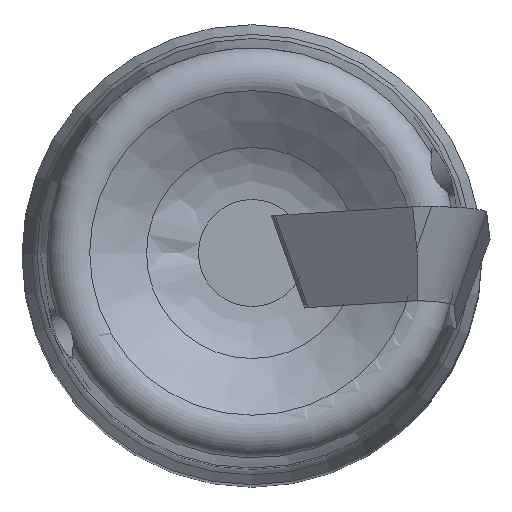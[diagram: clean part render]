
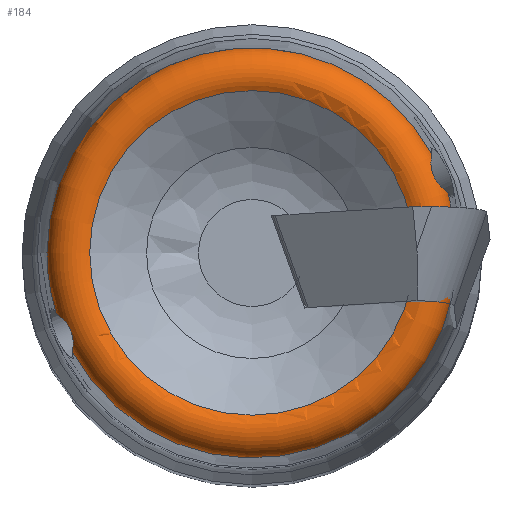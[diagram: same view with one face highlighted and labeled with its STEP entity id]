
A CAD part, top view. The second image highlights one B-rep face of the part: STEP entity #184.
In plain terms, the highlighted toroidal (fillet/blend) face has major radius 9.822 mm and minor radius 1.5 mm.
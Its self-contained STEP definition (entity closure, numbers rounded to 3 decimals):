
#181=TOROIDAL_SURFACE('',#486,9.822,1.5);
#184=ADVANCED_FACE('',(#221,#222),#181,.T.);
#215=B_SPLINE_CURVE_WITH_KNOTS('',3,(#700,#701,#702,#703,#704,#705,#706,
#707,#708,#709,#710,#711,#712,#713,#714,#715,#716,#717,#718,#719,#720,#721,
#722,#723,#724,#725,#726,#727,#728,#729,#730),.UNSPECIFIED.,.F.,.F.,(4,
3,3,3,3,3,3,3,3,3,4),(0.,0.113,0.226,0.333,
0.438,0.548,0.663,0.774,
0.879,0.985,1.),.UNSPECIFIED.);
#216=B_SPLINE_CURVE_WITH_KNOTS('',3,(#731,#732,#733,#734,#735,#736,#737,
#738,#739,#740,#741,#742,#743,#744,#745,#746,#747,#748,#749,#750,#751,#752,
#753,#754,#755,#756,#757,#758,#759,#760,#761),.UNSPECIFIED.,.F.,.F.,(4,
3,3,3,3,3,3,3,3,3,4),(0.,0.113,0.226,0.333,
0.438,0.548,0.663,0.774,
0.879,0.985,1.),.UNSPECIFIED.);
#221=FACE_BOUND('',#249,.T.);
#222=FACE_BOUND('',#250,.T.);
#249=EDGE_LOOP('',(#292));
#250=EDGE_LOOP('',(#293,#294,#295,#296));
#292=ORIENTED_EDGE('',*,*,#425,.F.);
#293=ORIENTED_EDGE('',*,*,#423,.F.);
#294=ORIENTED_EDGE('',*,*,#426,.T.);
#295=ORIENTED_EDGE('',*,*,#421,.F.);
#296=ORIENTED_EDGE('',*,*,#427,.T.);
#384=VERTEX_POINT('',#648);
#385=VERTEX_POINT('',#649);
#386=VERTEX_POINT('',#672);
#387=VERTEX_POINT('',#674);
#388=VERTEX_POINT('',#699);
#421=EDGE_CURVE('',#384,#385,#469,.T.);
#423=EDGE_CURVE('',#386,#387,#470,.T.);
#425=EDGE_CURVE('',#388,#388,#471,.T.);
#426=EDGE_CURVE('',#386,#385,#215,.T.);
#427=EDGE_CURVE('',#384,#387,#216,.T.);
#469=CIRCLE('',#482,11.32);
#470=CIRCLE('',#483,11.32);
#471=CIRCLE('',#485,8.961);
#482=AXIS2_PLACEMENT_3D('',#647,#532,#533);
#483=AXIS2_PLACEMENT_3D('',#673,#534,#535);
#485=AXIS2_PLACEMENT_3D('',#698,#538,#539);
#486=AXIS2_PLACEMENT_3D('',#762,#540,#541);
#532=DIRECTION('',(0.,0.,-1.));
#533=DIRECTION('',(1.,0.,0.));
#534=DIRECTION('',(0.,0.,-1.));
#535=DIRECTION('',(1.,0.,0.));
#538=DIRECTION('',(0.,0.,1.));
#539=DIRECTION('',(-1.,0.,0.));
#540=DIRECTION('',(0.,0.,1.));
#541=DIRECTION('',(1.,0.,0.));
#647=CARTESIAN_POINT('',(0.,0.,-0.161));
#648=CARTESIAN_POINT('',(10.823,3.319,-0.161));
#649=CARTESIAN_POINT('',(-9.906,-5.48,-0.161));
#672=CARTESIAN_POINT('',(-10.823,-3.319,-0.161));
#673=CARTESIAN_POINT('',(0.,0.,-0.161));
#674=CARTESIAN_POINT('',(9.906,5.48,-0.161));
#698=CARTESIAN_POINT('',(0.,0.,1.002));
#699=CARTESIAN_POINT('',(-8.961,0.,1.002));
#700=CARTESIAN_POINT('',(-10.823,-3.319,-0.161));
#701=CARTESIAN_POINT('',(-10.811,-3.34,-0.034));
#702=CARTESIAN_POINT('',(-10.779,-3.367,0.093));
#703=CARTESIAN_POINT('',(-10.73,-3.404,0.208));
#704=CARTESIAN_POINT('',(-10.682,-3.441,0.323));
#705=CARTESIAN_POINT('',(-10.615,-3.491,0.429));
#706=CARTESIAN_POINT('',(-10.542,-3.555,0.516));
#707=CARTESIAN_POINT('',(-10.472,-3.615,0.598));
#708=CARTESIAN_POINT('',(-10.395,-3.69,0.665));
#709=CARTESIAN_POINT('',(-10.321,-3.776,0.713));
#710=CARTESIAN_POINT('',(-10.25,-3.861,0.761));
#711=CARTESIAN_POINT('',(-10.18,-3.958,0.793));
#712=CARTESIAN_POINT('',(-10.121,-4.061,0.81));
#713=CARTESIAN_POINT('',(-10.059,-4.171,0.828));
#714=CARTESIAN_POINT('',(-10.006,-4.29,0.83));
#715=CARTESIAN_POINT('',(-9.967,-4.411,0.816));
#716=CARTESIAN_POINT('',(-9.927,-4.536,0.802));
#717=CARTESIAN_POINT('',(-9.901,-4.665,0.77));
#718=CARTESIAN_POINT('',(-9.888,-4.787,0.719));
#719=CARTESIAN_POINT('',(-9.875,-4.905,0.67));
#720=CARTESIAN_POINT('',(-9.875,-5.018,0.601));
#721=CARTESIAN_POINT('',(-9.88,-5.114,0.516));
#722=CARTESIAN_POINT('',(-9.885,-5.204,0.436));
#723=CARTESIAN_POINT('',(-9.894,-5.281,0.339));
#724=CARTESIAN_POINT('',(-9.901,-5.34,0.234));
#725=CARTESIAN_POINT('',(-9.908,-5.4,0.127));
#726=CARTESIAN_POINT('',(-9.912,-5.443,0.01));
#727=CARTESIAN_POINT('',(-9.908,-5.469,-0.11));
#728=CARTESIAN_POINT('',(-9.907,-5.473,-0.127));
#729=CARTESIAN_POINT('',(-9.907,-5.476,-0.144));
#730=CARTESIAN_POINT('',(-9.906,-5.48,-0.161));
#731=CARTESIAN_POINT('',(10.823,3.319,-0.161));
#732=CARTESIAN_POINT('',(10.811,3.34,-0.034));
#733=CARTESIAN_POINT('',(10.779,3.367,0.093));
#734=CARTESIAN_POINT('',(10.73,3.404,0.208));
#735=CARTESIAN_POINT('',(10.682,3.441,0.323));
#736=CARTESIAN_POINT('',(10.615,3.491,0.429));
#737=CARTESIAN_POINT('',(10.542,3.555,0.516));
#738=CARTESIAN_POINT('',(10.472,3.615,0.598));
#739=CARTESIAN_POINT('',(10.395,3.69,0.665));
#740=CARTESIAN_POINT('',(10.321,3.776,0.713));
#741=CARTESIAN_POINT('',(10.25,3.861,0.761));
#742=CARTESIAN_POINT('',(10.18,3.958,0.793));
#743=CARTESIAN_POINT('',(10.121,4.061,0.81));
#744=CARTESIAN_POINT('',(10.059,4.171,0.828));
#745=CARTESIAN_POINT('',(10.006,4.29,0.83));
#746=CARTESIAN_POINT('',(9.967,4.411,0.816));
#747=CARTESIAN_POINT('',(9.927,4.536,0.802));
#748=CARTESIAN_POINT('',(9.901,4.665,0.77));
#749=CARTESIAN_POINT('',(9.888,4.787,0.719));
#750=CARTESIAN_POINT('',(9.875,4.905,0.67));
#751=CARTESIAN_POINT('',(9.875,5.018,0.601));
#752=CARTESIAN_POINT('',(9.88,5.114,0.516));
#753=CARTESIAN_POINT('',(9.885,5.204,0.436));
#754=CARTESIAN_POINT('',(9.894,5.281,0.339));
#755=CARTESIAN_POINT('',(9.901,5.34,0.234));
#756=CARTESIAN_POINT('',(9.908,5.4,0.127));
#757=CARTESIAN_POINT('',(9.912,5.443,0.01));
#758=CARTESIAN_POINT('',(9.908,5.469,-0.11));
#759=CARTESIAN_POINT('',(9.907,5.473,-0.127));
#760=CARTESIAN_POINT('',(9.907,5.476,-0.144));
#761=CARTESIAN_POINT('',(9.906,5.48,-0.161));
#762=CARTESIAN_POINT('',(0.,0.,-0.227));
